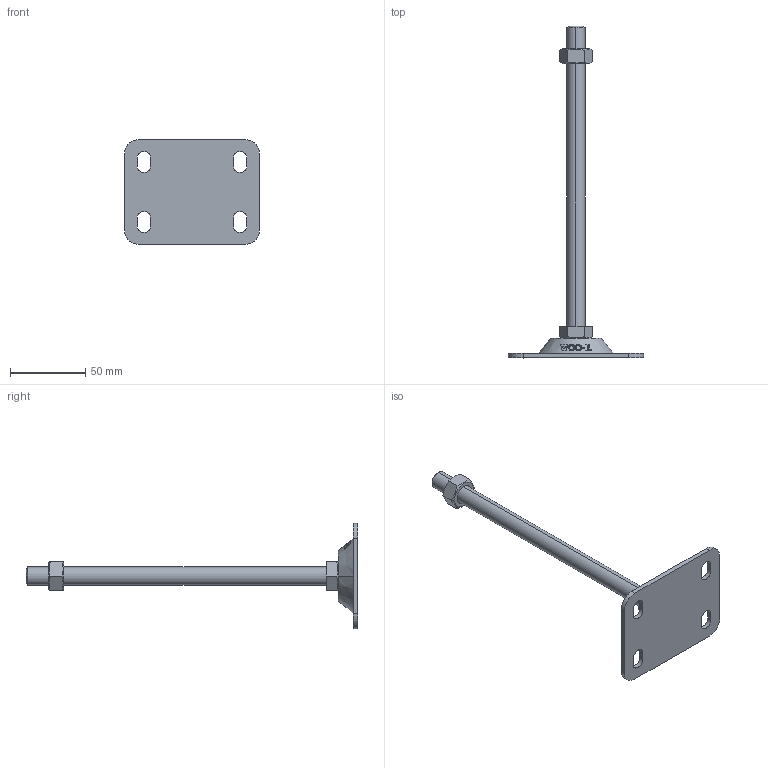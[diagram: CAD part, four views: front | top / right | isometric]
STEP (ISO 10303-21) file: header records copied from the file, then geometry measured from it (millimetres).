
FILE_DESCRIPTION (( 'STEP AP214' ), '1' );
FILE_NAME ('FABL7090-M12-200.step', '2021-03-28T23:50:59', ( '' ), ( '' ), 'SwSTEP 2.0', 'SolidWorks 2019', '' );
FILE_SCHEMA (( 'AUTOMOTIVE_DESIGN' ));
Length unit declared in the file: millimetre
Products named in the file (2): FABL7090-M12-200
Bounding box: 90 x 221 x 70 mm (x, y, z)
Volume: 58353.6 mm3; surface area: 23137.5 mm2
Topology: 2 solids, 2 shells, 142 faces, 369 edges, 242 vertices
Faces by surface type: plane 58, cylinder 44, cone 22, bspline 18
Entity records: 5925 total; most frequent: CARTESIAN_POINT 2627, ORIENTED_EDGE 738, DIRECTION 553, EDGE_CURVE 369, VERTEX_POINT 242, AXIS2_PLACEMENT_3D 198, EDGE_LOOP 163, VECTOR 157
